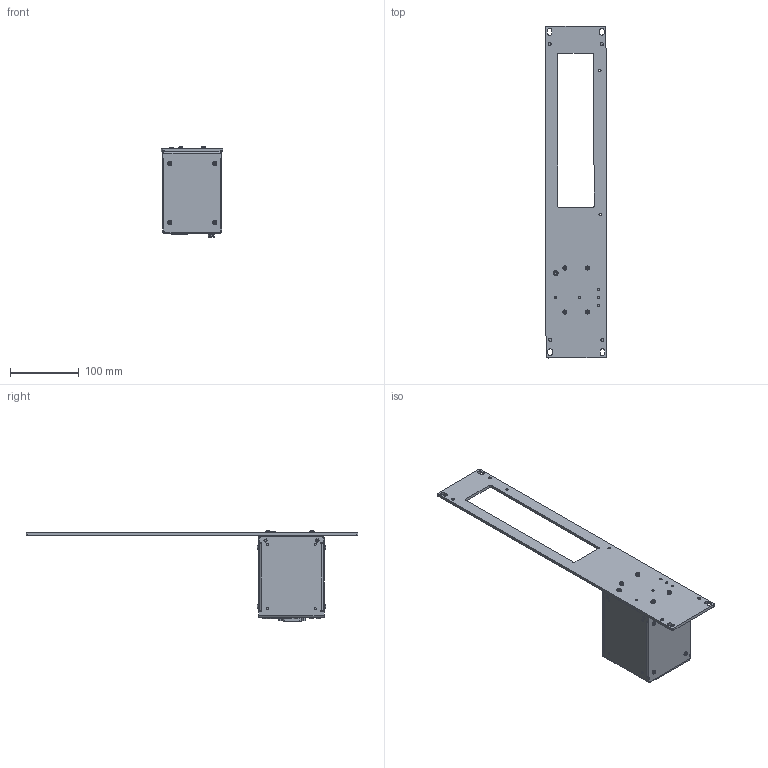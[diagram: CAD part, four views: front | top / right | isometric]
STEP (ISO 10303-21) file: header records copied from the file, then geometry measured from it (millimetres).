
FILE_DESCRIPTION(/* description */ (''),/* implementation_level */ '2;1');
FILE_NAME(/* name */ 'PSC ANY-EXT_RA19-ES.stp',/* time_stamp */ '2024-12-02T08:30:35+01:00',/* author */ ('Simon'),/* organization */ (''),/* preprocessor_version */ 'ST-DEVELOPER v19.2',/* originating_system */ 'Autodesk Inventor 2024',/* authorisation */ '');
FILE_SCHEMA (('AUTOMOTIVE_DESIGN { 1 0 10303 214 3 1 1 }'));
Products named in the file (1): _Assembly anybus-ext_Simplify_1
Bounding box: 89.09 x 482.67 x 131.09 mm (x, y, z)
Volume: 1023603.7 mm3; surface area: 144136.4 mm2
Topology: 1 solids, 190 shells, 4323 faces, 11790 edges, 7853 vertices
Faces by surface type: plane 3082, cylinder 630, bspline 470, cone 106, torus 35
Full cylindrical faces by diameter (mm): 0.43 x50, 0.6 x3, 0.7 x1, 1 x15, 2.156 x2, 2.459 x8, 2.5 x2, 2.75 x2, 3.1 x4, 3.2 x2, 3.5 x7, 4 x9, 4.14 x4, 4.3 x4, 4.5 x4, 5.8 x1, 6 x24, 6.2 x3, 7 x1
Entity records: 145290 total; most frequent: CARTESIAN_POINT 33254, ORIENTED_EDGE 22686, DIRECTION 20672, EDGE_CURVE 11820, LINE 8652, VECTOR 8652, VERTEX_POINT 7853, AXIS2_PLACEMENT_3D 6010
